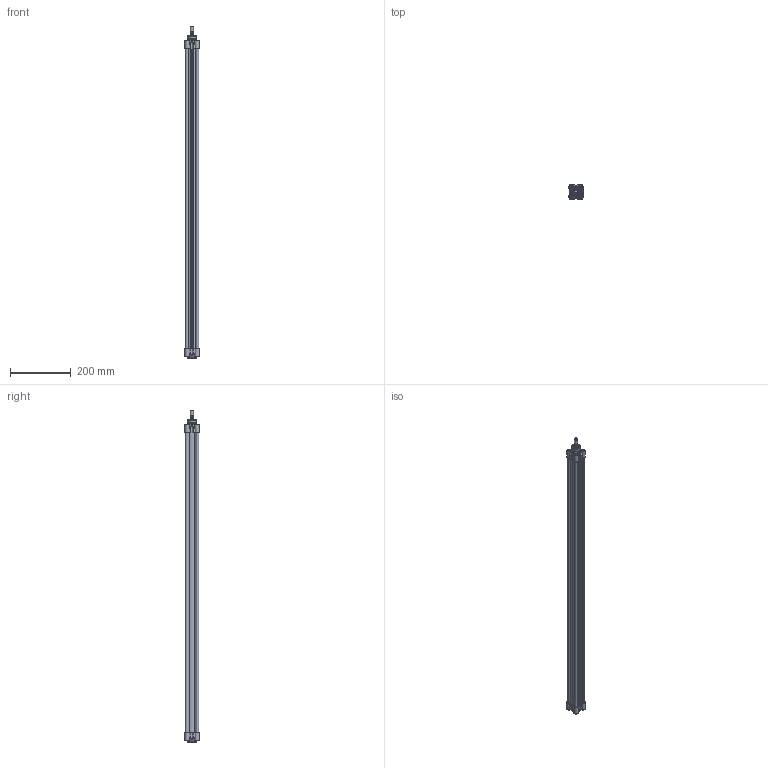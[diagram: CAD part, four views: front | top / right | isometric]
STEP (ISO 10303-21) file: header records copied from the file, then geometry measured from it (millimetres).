
FILE_DESCRIPTION(/* description */ ('CILINDRO D.E. MAGNETICO AMMORTIZZATO ISO 15552'),/* implementation_level */ '2;1');
FILE_NAME(/* name */ 'T:\Archivio Inventor\- 00 NUOVI STP PER SITO CON STELO CHE SI MUOVE\SERIE H - U\SERIE HDM\HDM032-TUBO NUOVO\HDM032.950.GS.M.stp',/* time_stamp */ '2018-07-25T14:31:29+02:00',/* author */ ('carlo.corazza'),/* organization */ (''),/* preprocessor_version */ 'ST-DEVELOPER v16.5',/* originating_system */ 'Autodesk Inventor 2017',/* authorisation */ '');
FILE_SCHEMA (('AUTOMOTIVE_DESIGN { 1 0 10303 214 3 1 1 }'));
Length unit declared in the file: millimetre
Products named in the file (5): HDM032.950.GS.M; TP; STELO-950; TA; CORPO-950
Assembly tree (4 placements, depth 2):
  HDM032.950.GS.M
    TP
    STELO-950
    TA
    CORPO-950
Bounding box: 47 x 47 x 1096 mm (x, y, z)
Volume: 707429.8 mm3; surface area: 546211.9 mm2
Topology: 4 solids, 18 shells, 969 faces, 2356 edges, 1494 vertices
Faces by surface type: plane 330, cylinder 260, bspline 190, cone 86, torus 83, sphere 20
Full cylindrical faces by diameter (mm): 2 x2, 2.1 x2, 4 x2, 4.5 x2, 4.917 x8, 6 x8, 6.2 x8, 6.3 x4, 7 x2, 7.8 x4, 7.9 x3, 8 x4, 8.566 x2, 10 x9, 10.3 x8, 11.6 x1, 12 x1, 12.8 x1, 12.847 x1, 16 x1, 17 x2, 22 x3, 28 x1, 30 x2, 32 x1
Entity records: 31186 total; most frequent: CARTESIAN_POINT 9171, ORIENTED_EDGE 4162, DIRECTION 4048, EDGE_CURVE 2081, AXIS2_PLACEMENT_3D 1569, VERTEX_POINT 1436, EDGE_LOOP 1302, FACE_OUTER_BOUND 969
